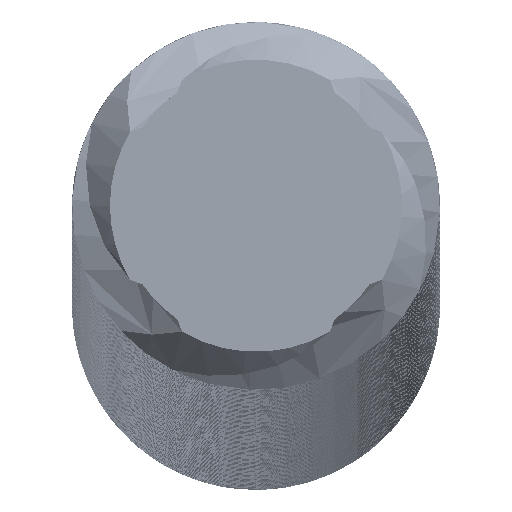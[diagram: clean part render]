
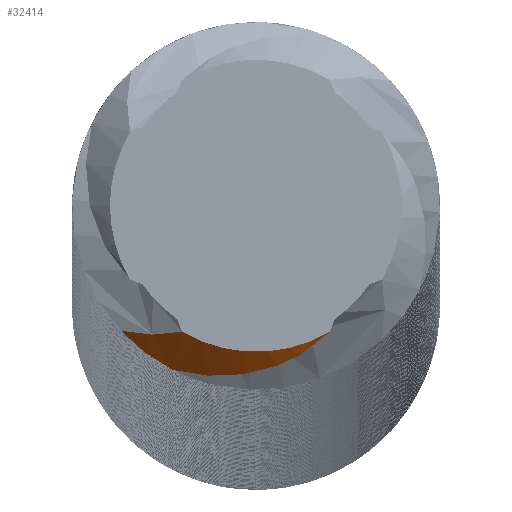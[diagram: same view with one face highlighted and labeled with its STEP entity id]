
A CAD part, top view. The second image highlights one B-rep face of the part: STEP entity #32414.
In plain terms, the highlighted conical face has half-angle 45 degrees and reference radius 7.154 mm.
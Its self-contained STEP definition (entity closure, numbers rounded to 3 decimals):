
#2564 = CARTESIAN_POINT ( 'NONE',  ( 1.147, -3.139, 624.847 ) ) ;
#3220 = ORIENTED_EDGE ( 'NONE', *, *, #47622, .T. ) ;
#6203 = ORIENTED_EDGE ( 'NONE', *, *, #29438, .F. ) ;
#6458 = CARTESIAN_POINT ( 'NONE',  ( -2.587, -3.052, 624.175 ) ) ;
#9306 = EDGE_LOOP ( 'NONE', ( #6203, #37543, #3220, #81024 ) ) ;
#16879 = CARTESIAN_POINT ( 'NONE',  ( -2.323, -3.257, 624.175 ) ) ;
#17796 = CARTESIAN_POINT ( 'NONE',  ( -2.472, -3.145, 624.175 ) ) ;
#17854 = FACE_OUTER_BOUND ( 'NONE', #9306, .T. ) ;
#18483 = DIRECTION ( 'NONE',  ( -1., 0., 0. ) ) ;
#20125 = B_SPLINE_CURVE_WITH_KNOTS ( 'NONE', 3,
 ( #121192, #79846, #2564, #121667, #25659, #122144, #67131, #132530, #57689, #132053, #110375, #112230 ),
 .UNSPECIFIED., .F., .F.,
 ( 4, 2, 2, 2, 2, 4 ),
 ( 0., 0.001, 0.001, 0.002, 0.003, 0.004 ),
 .UNSPECIFIED. ) ;
#23718 = CARTESIAN_POINT ( 'NONE',  ( -1.815, -3.565, 624.175 ) ) ;
#25659 = CARTESIAN_POINT ( 'NONE',  ( 0.602, -3.424, 624.701 ) ) ;
#26289 = CARTESIAN_POINT ( 'NONE',  ( -2.937, -2.715, 624.175 ) ) ;
#26573 = CARTESIAN_POINT ( 'NONE',  ( -1.608, -2.738, 625. ) ) ;
#27703 = CARTESIAN_POINT ( 'NONE',  ( -2.383, -3.213, 624.175 ) ) ;
#29438 = EDGE_CURVE ( 'NONE', #32291, #71508, #105370, .T. ) ;
#29596 = CONICAL_SURFACE ( 'NONE', #93192, 7.153, 0.785 ) ;
#29984 = CARTESIAN_POINT ( 'NONE',  ( -2.442, -3.168, 624.175 ) ) ;
#32291 = VERTEX_POINT ( 'NONE', #23718 ) ;
#32414 = ADVANCED_FACE ( 'NONE', ( #17854 ), #29596, .T. ) ;
#37543 = ORIENTED_EDGE ( 'NONE', *, *, #72120, .F. ) ;
#38065 = CARTESIAN_POINT ( 'NONE',  ( -1.815, -3.565, 624.175 ) ) ;
#38529 = CARTESIAN_POINT ( 'NONE',  ( -2.413, -3.191, 624.175 ) ) ;
#39914 = CARTESIAN_POINT ( 'NONE',  ( -2.745, -2.911, 624.175 ) ) ;
#40036 = CARTESIAN_POINT ( 'NONE',  ( -1.608, -2.738, 625. ) ) ;
#47326 = CARTESIAN_POINT ( 'NONE',  ( -2.042, -2.804, 624.711 ) ) ;
#47622 = EDGE_CURVE ( 'NONE', #50720, #123764, #58234, .T. ) ;
#48248 = CARTESIAN_POINT ( 'NONE',  ( -2.715, -2.765, 624.304 ) ) ;
#48895 = CARTESIAN_POINT ( 'NONE',  ( -2.011, -3.458, 624.175 ) ) ;
#50720 = VERTEX_POINT ( 'NONE', #102363 ) ;
#57689 = CARTESIAN_POINT ( 'NONE',  ( -0.594, -3.705, 624.435 ) ) ;
#58126 = CARTESIAN_POINT ( 'NONE',  ( -1.821, -2.783, 624.853 ) ) ;
#58234 = CIRCLE ( 'NONE', #116882, 3.175 ) ;
#59698 = CARTESIAN_POINT ( 'NONE',  ( -2.138, -3.381, 624.175 ) ) ;
#61098 = CARTESIAN_POINT ( 'NONE',  ( -2.843, -2.815, 624.175 ) ) ;
#61789 = DIRECTION ( 'NONE',  ( 0., 0., -1. ) ) ;
#62027 = CARTESIAN_POINT ( 'NONE',  ( -2.53, -3.099, 624.175 ) ) ;
#67131 = CARTESIAN_POINT ( 'NONE',  ( 0.168, -3.576, 624.599 ) ) ;
#69612 = CARTESIAN_POINT ( 'NONE',  ( -1.881, -3.531, 624.175 ) ) ;
#71508 = VERTEX_POINT ( 'NONE', #26289 ) ;
#72120 = EDGE_CURVE ( 'NONE', #50720, #32291, #20125, .T. ) ;
#72395 = CARTESIAN_POINT ( 'NONE',  ( -2.794, -2.863, 624.175 ) ) ;
#76469 = DIRECTION ( 'NONE',  ( 0., 0., -1. ) ) ;
#79846 = CARTESIAN_POINT ( 'NONE',  ( 1.39, -2.956, 624.922 ) ) ;
#81024 = ORIENTED_EDGE ( 'NONE', *, *, #124233, .F. ) ;
#81409 = CARTESIAN_POINT ( 'NONE',  ( -2.262, -3.3, 624.175 ) ) ;
#87780 = DIRECTION ( 'NONE',  ( -1., 0., 0. ) ) ;
#92021 = CARTESIAN_POINT ( 'NONE',  ( -2.937, -2.715, 624.175 ) ) ;
#93192 = AXIS2_PLACEMENT_3D ( 'NONE', #99949, #76469, #87780 ) ;
#99949 = CARTESIAN_POINT ( 'NONE',  ( 0., 0., 621.022 ) ) ;
#102363 = CARTESIAN_POINT ( 'NONE',  ( 1.608, -2.738, 625. ) ) ;
#102481 = B_SPLINE_CURVE_WITH_KNOTS ( 'NONE', 3,
 ( #92021, #48248, #112669, #47326, #58126, #26573 ),
 .UNSPECIFIED., .F., .F.,
 ( 4, 2, 4 ),
 ( 0., 0.001, 0.002 ),
 .UNSPECIFIED. ) ;
#105309 = CARTESIAN_POINT ( 'NONE',  ( -2.643, -3.003, 624.175 ) ) ;
#105370 = B_SPLINE_CURVE_WITH_KNOTS ( 'NONE', 3,
 ( #38065, #69612, #113330, #48895, #124153, #59698, #135041, #81409, #16879, #27703, #38529, #29984, #17796, #62027, #6458, #105309, #115651, #39914, #72395, #61098, #113796, #135487 ),
 .UNSPECIFIED., .F., .F.,
 ( 4, 3, 3, 3, 3, 3, 3, 4 ),
 ( 0., 0., 0., 0.001, 0.001, 0.001, 0.001, 0.001 ),
 .UNSPECIFIED. ) ;
#110375 = CARTESIAN_POINT ( 'NONE',  ( -1.515, -3.646, 624.239 ) ) ;
#112230 = CARTESIAN_POINT ( 'NONE',  ( -1.815, -3.565, 624.175 ) ) ;
#112669 = CARTESIAN_POINT ( 'NONE',  ( -2.489, -2.797, 624.436 ) ) ;
#113330 = CARTESIAN_POINT ( 'NONE',  ( -1.947, -3.495, 624.175 ) ) ;
#113796 = CARTESIAN_POINT ( 'NONE',  ( -2.891, -2.765, 624.175 ) ) ;
#115651 = CARTESIAN_POINT ( 'NONE',  ( -2.694, -2.957, 624.175 ) ) ;
#116882 = AXIS2_PLACEMENT_3D ( 'NONE', #132678, #61789, #18483 ) ;
#121192 = CARTESIAN_POINT ( 'NONE',  ( 1.608, -2.738, 625. ) ) ;
#121667 = CARTESIAN_POINT ( 'NONE',  ( 0.743, -3.36, 624.737 ) ) ;
#122144 = CARTESIAN_POINT ( 'NONE',  ( 0.315, -3.532, 624.632 ) ) ;
#123764 = VERTEX_POINT ( 'NONE', #40036 ) ;
#124153 = CARTESIAN_POINT ( 'NONE',  ( -2.075, -3.421, 624.175 ) ) ;
#124233 = EDGE_CURVE ( 'NONE', #71508, #123764, #102481, .T. ) ;
#132053 = CARTESIAN_POINT ( 'NONE',  ( -1.207, -3.69, 624.304 ) ) ;
#132530 = CARTESIAN_POINT ( 'NONE',  ( -0.282, -3.675, 624.501 ) ) ;
#132678 = CARTESIAN_POINT ( 'NONE',  ( 0., 0., 625. ) ) ;
#135041 = CARTESIAN_POINT ( 'NONE',  ( -2.2, -3.34, 624.175 ) ) ;
#135487 = CARTESIAN_POINT ( 'NONE',  ( -2.937, -2.715, 624.175 ) ) ;
